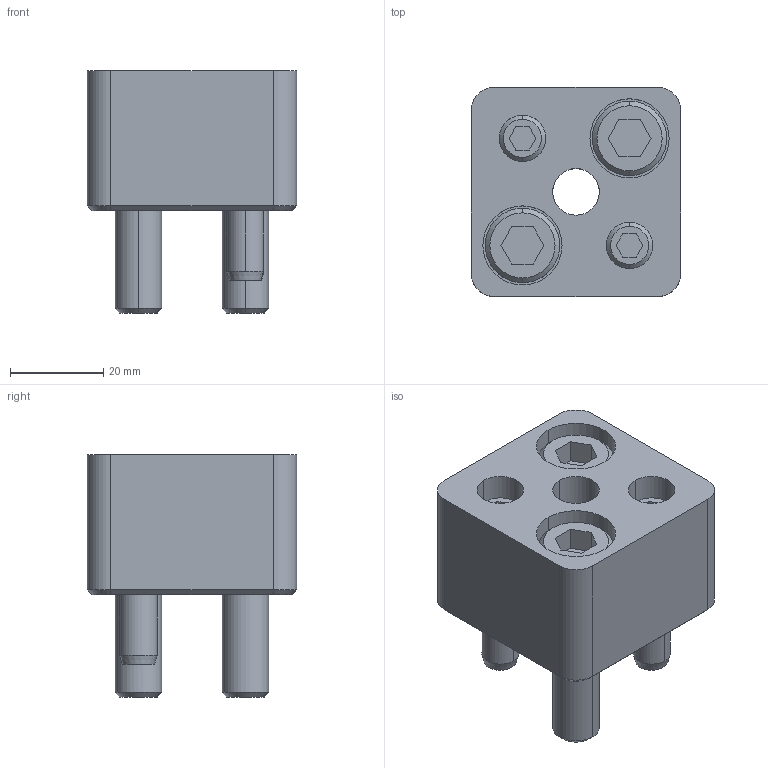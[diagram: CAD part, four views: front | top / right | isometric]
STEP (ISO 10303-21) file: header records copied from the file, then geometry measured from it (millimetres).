
FILE_DESCRIPTION(/* description */ (''),/* implementation_level */ '2;1');
FILE_NAME(/* name */ '3d_hmpsr10_04142_r00.stp',/* time_stamp */ '2011-01-10T14:14:41+09:00',/* author */ ('MISUMI'),/* organization */ (''),/* preprocessor_version */ 'ST-DEVELOPER v11',/* originating_system */ 'UGS - NX 5.0',/* authorisation */ '');
FILE_SCHEMA (('CONFIG_CONTROL_DESIGN'));
Length unit declared in the file: millimetre
Products named in the file (1): 3d_hmpsr10_04142_r00
Bounding box: 45 x 45 x 52 mm (x, y, z)
Volume: 58136.4 mm3; surface area: 21032.9 mm2
Topology: 7 solids, 7 shells, 143 faces, 310 edges, 196 vertices
Faces by surface type: plane 63, cylinder 50, cone 30
Entity records: 4026 total; most frequent: DIRECTION 718, CARTESIAN_POINT 704, ORIENTED_EDGE 620, EDGE_CURVE 310, AXIS2_PLACEMENT_3D 274, VERTEX_POINT 196, LINE 170, VECTOR 170
